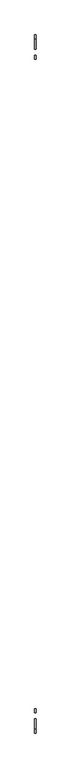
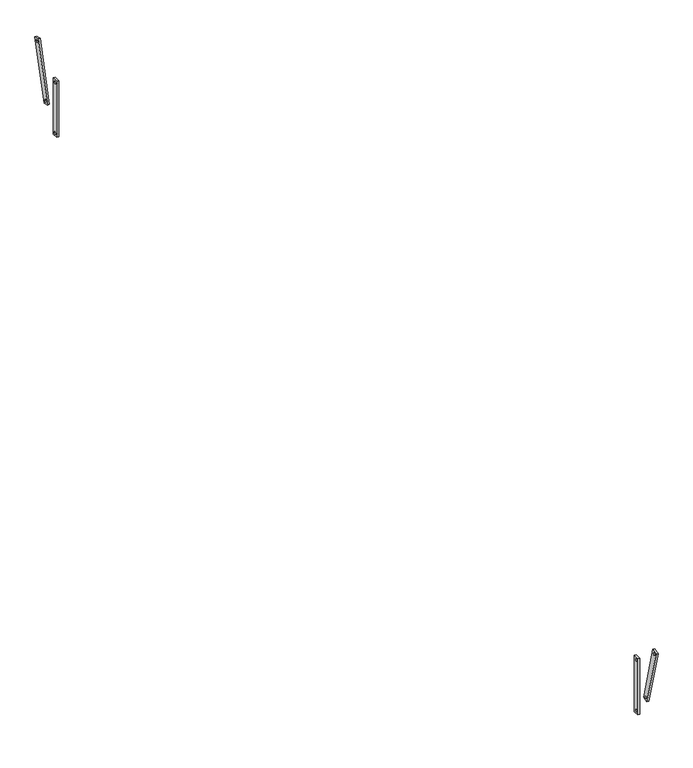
"""IFC4 building model written with IfcOpenShell, lengths in millimetres: proxy geometry, Modelos genéricos 279 : Modelos genéricos 278."""

from ifc_helpers import new_model, si_unit, point, frame, frame_2d, origin, place, context, project, spatial, polyline, circle_curve, trimmed, segment, composite_curve, outline, extrude, source, transform, mapped, element, save


def generic_models_f7b39308(model_context):
    return source(origin(), model_context, "Body", "SweptSolid", [
        extrude(outline(polyline([(5318.6238165, 2800.0), (5318.6238165, 3200.0), (5358.6238165, 3200.0), (5358.6238165, 2800.0), (5318.6238165, 2800.0)]), holes=[composite_curve([segment(trimmed(circle_curve(frame_2d((5338.6238165, 3180.0)), 7.5), [point((5346.1238165, 3180.0))], [point((5331.1238165, 3180.0))], True, "CARTESIAN"), True, "CONTINUOUS"), segment(trimmed(circle_curve(frame_2d((5338.6238165, 3180.0)), 7.5), [point((5331.1238165, 3180.0))], [point((5346.1238165, 3180.0))], True, "CARTESIAN"), True, "CONTINUOUS")], self_intersect=False), composite_curve([segment(trimmed(circle_curve(frame_2d((5338.6238165, 2820.0)), 7.5), [point((5346.1238165, 2820.0))], [point((5331.1238165, 2820.0))], True, "CARTESIAN"), True, "CONTINUOUS"), segment(trimmed(circle_curve(frame_2d((5338.6238165, 2820.0)), 7.5), [point((5331.1238165, 2820.0))], [point((5346.1238165, 2820.0))], True, "CARTESIAN"), True, "CONTINUOUS")], self_intersect=False)]), frame((-12616.5527533, 0.0, 0.0), z_axis=(1.0, 0.0, 0.0), x_axis=(0.0, 1.0, 0.0)), (0.0, 0.0, 1.0), 12.7),
        extrude(outline(polyline([(5424.7907615, 2966.5419368), (5533.4947604, 3372.2307838), (5572.1317934, 3361.878022), (5463.4277945, 2956.1891749), (5424.7907615, 2966.5419368)]), holes=[composite_curve([segment(trimmed(circle_curve(frame_2d((5547.636896, 3347.7358864)), 7.5), [point((5554.8813397, 3345.7947435))], [point((5540.3924523, 3349.6770292))], True, "CARTESIAN"), True, "CONTINUOUS"), segment(trimmed(circle_curve(frame_2d((5547.636896, 3347.7358864)), 7.5), [point((5540.3924523, 3349.6770292))], [point((5554.8813397, 3345.7947435))], True, "CARTESIAN"), True, "CONTINUOUS")], self_intersect=False), composite_curve([segment(trimmed(circle_curve(frame_2d((5449.2856589, 2980.6840724)), 7.5), [point((5456.5301026, 2978.7429295))], [point((5442.0412152, 2982.6252152))], True, "CARTESIAN"), True, "CONTINUOUS"), segment(trimmed(circle_curve(frame_2d((5449.2856589, 2980.6840724)), 7.5), [point((5442.0412152, 2982.6252152))], [point((5456.5301026, 2978.7429295))], True, "CARTESIAN"), True, "CONTINUOUS")], self_intersect=False)]), frame((-12616.5527533, 0.0, 0.0), z_axis=(1.0, 0.0, 0.0), x_axis=(0.0, 1.0, 0.0)), (0.0, 0.0, 1.0), 12.7),
        extrude(outline(polyline([(-1421.3761835, 2800.0), (-1461.3761835, 2800.0), (-1461.3761835, 3200.0), (-1421.3761835, 3200.0), (-1421.3761835, 2800.0)]), holes=[composite_curve([segment(trimmed(circle_curve(frame_2d((-1441.3761835, 3180.0)), 7.5), [point((-1448.8761835, 3180.0))], [point((-1433.8761835, 3180.0))], True, "CARTESIAN"), True, "CONTINUOUS"), segment(trimmed(circle_curve(frame_2d((-1441.3761835, 3180.0)), 7.5), [point((-1433.8761835, 3180.0))], [point((-1448.8761835, 3180.0))], True, "CARTESIAN"), True, "CONTINUOUS")], self_intersect=False), composite_curve([segment(trimmed(circle_curve(frame_2d((-1441.3761835, 2820.0)), 7.5), [point((-1448.8761835, 2820.0))], [point((-1433.8761835, 2820.0))], True, "CARTESIAN"), True, "CONTINUOUS"), segment(trimmed(circle_curve(frame_2d((-1441.3761835, 2820.0)), 7.5), [point((-1433.8761835, 2820.0))], [point((-1448.8761835, 2820.0))], True, "CARTESIAN"), True, "CONTINUOUS")], self_intersect=False)]), frame((-12616.5527533, 0.0, 0.0), z_axis=(1.0, 0.0, 0.0), x_axis=(0.0, 1.0, 0.0)), (0.0, 0.0, 1.0), 12.7),
        extrude(outline(polyline([(-1527.5431285, 2966.5419368), (-1566.1801615, 2956.1891749), (-1674.8841605, 3361.878022), (-1636.2471274, 3372.2307838), (-1527.5431285, 2966.5419368)]), holes=[composite_curve([segment(trimmed(circle_curve(frame_2d((-1650.389263, 3347.7358864)), 7.5), [point((-1657.6337067, 3345.7947435))], [point((-1643.1448193, 3349.6770292))], True, "CARTESIAN"), True, "CONTINUOUS"), segment(trimmed(circle_curve(frame_2d((-1650.389263, 3347.7358864)), 7.5), [point((-1643.1448193, 3349.6770292))], [point((-1657.6337067, 3345.7947435))], True, "CARTESIAN"), True, "CONTINUOUS")], self_intersect=False), composite_curve([segment(trimmed(circle_curve(frame_2d((-1552.0380259, 2980.6840724)), 7.5), [point((-1559.2824696, 2978.7429295))], [point((-1544.7935822, 2982.6252152))], True, "CARTESIAN"), True, "CONTINUOUS"), segment(trimmed(circle_curve(frame_2d((-1552.0380259, 2980.6840724)), 7.5), [point((-1544.7935822, 2982.6252152))], [point((-1559.2824696, 2978.7429295))], True, "CARTESIAN"), True, "CONTINUOUS")], self_intersect=False)]), frame((-12616.5527533, 0.0, 0.0), z_axis=(1.0, 0.0, 0.0), x_axis=(0.0, 1.0, 0.0)), (0.0, 0.0, 1.0), 12.7),
    ])


if __name__ == "__main__":
    model = new_model("IFC4")
    model_context = context("Model", 3, world=origin())
    ifc_project = project(units=[si_unit("LENGTHUNIT", "METRE", prefix="MILLI")], contexts=[model_context])
    site = spatial("IfcSite", under=ifc_project)
    building = spatial("IfcBuilding", under=site)
    placement = place(None, origin())
    generic_models_shape = generic_models_f7b39308(model_context)
    element("IfcBuildingElementProxy", 1, Name="Modelos genéricos 279 : Modelos genéricos 278", ObjectType="Modelos genéricos 279 : Modelos genéricos 278", at=placement, inside=building, context=model_context, shape_type="MappedRepresentation", body=[
        mapped(generic_models_shape, transform((0.0, 0.0, 0.0), x_axis=(1.0, 0.0, 0.0), y_axis=(0.0, 1.0, 0.0), z_axis=(0.0, 0.0, 1.0))),
    ])
    save(model, "model.ifc")
